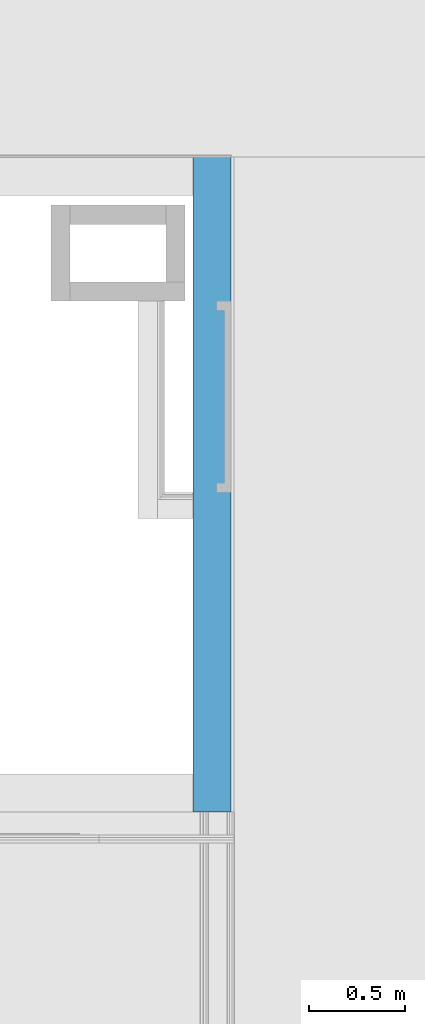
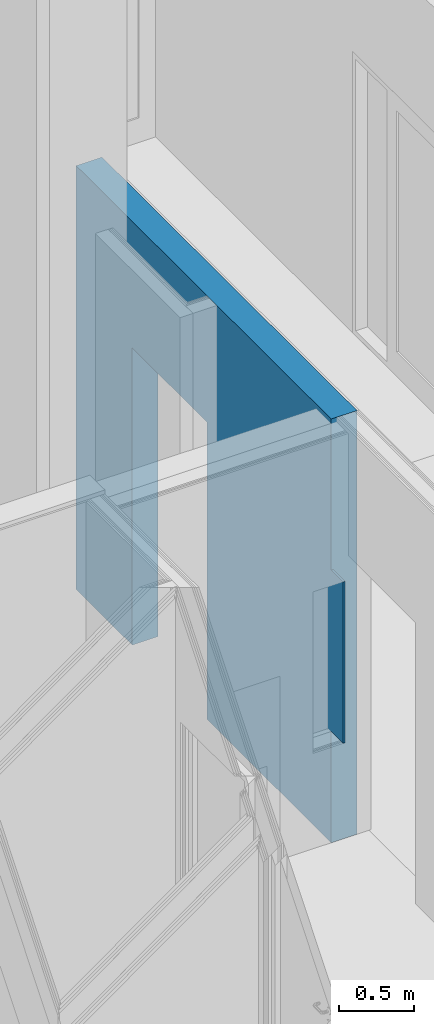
# One storey, part 118 of 139: 1 building element part, 1 opening, 1 element without a shape of its own.
"""IFC2X3 building model written with IfcOpenShell, lengths in millimetres."""

from ifc_helpers import new_model, entity, si_unit, converted_unit, derived_unit, money_unit, direction, frame, origin_with_axes, place, context, subcontext, project, spatial, faceted_brep, material, type_object, element, aggregate, save


model = new_model("IFC2X3")

# Units and contexts
model_context = context("Model", 3, precision=0.01, world=origin_with_axes(), true_north=direction((0.0, 1.0)))
body_context = subcontext(model_context, "Body", "Model", "MODEL_VIEW")
ifc_project = project(units=[si_unit("LENGTHUNIT", "METRE", prefix="MILLI"), si_unit("AREAUNIT", "SQUARE_METRE"), si_unit("VOLUMEUNIT", "CUBIC_METRE"), converted_unit("PLANEANGLEUNIT", "DEGREE", entity("IfcPlaneAngleMeasure", 0.0174532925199), si_unit("PLANEANGLEUNIT", "RADIAN"), dimensions=[0, 0, 0, 0, 0, 0, 0]), money_unit("EUR"), converted_unit("TIMEUNIT", "Year", entity("IfcTimeMeasure", 31556926.0), si_unit("TIMEUNIT", "SECOND"), dimensions=[0, 0, 1, 0, 0, 0, 0]), si_unit("MASSUNIT", "GRAM", prefix="KILO"), si_unit("THERMODYNAMICTEMPERATUREUNIT", "DEGREE_CELSIUS"), si_unit("LUMINOUSINTENSITYUNIT", "LUMEN"), si_unit("ENERGYUNIT", "JOULE", prefix="MEGA"), derived_unit("THERMALCONDUCTANCEUNIT", [(si_unit("POWERUNIT", "WATT"), 1), (si_unit("LENGTHUNIT", "METRE"), -1), (si_unit("THERMODYNAMICTEMPERATUREUNIT", "KELVIN"), -1)]), derived_unit("SPECIFICHEATCAPACITYUNIT", [(si_unit("ENERGYUNIT", "JOULE"), 1), (si_unit("MASSUNIT", "GRAM", prefix="KILO"), -1), (si_unit("THERMODYNAMICTEMPERATUREUNIT", "KELVIN"), -1)]), derived_unit("MASSDENSITYUNIT", [(si_unit("MASSUNIT", "GRAM", prefix="KILO"), 1), (si_unit("VOLUMEUNIT", "CUBIC_METRE"), -1)])], contexts=[model_context])

# Site, building, storey
site_placement = place(None, origin_with_axes())
site = spatial("IfcSite", under=ifc_project, at=site_placement, Name="Kolde pst 67a", CompositionType="ELEMENT")
building_placement = place(site_placement, origin_with_axes())
building = spatial("IfcBuilding", under=site, at=building_placement, Name="Riigigümnaasium", CompositionType="ELEMENT")
storey_placement = place(building_placement, frame((0.0, 0.0, 4600.0), z_axis=(0.0, 0.0, 1.0), x_axis=(1.0, 0.0, 0.0)))
storey = spatial("IfcBuildingStorey", under=building, at=storey_placement, Name="2. korrus", CompositionType="ELEMENT", Elevation=4600.0)

# Wall, opening, building element part
wall_type = type_object("IfcWallType", Name="SS-KP-20/2_plokksein 1xplaaditud (1) 215", PredefinedType="NOTDEFINED")
wall_placement = place(storey_placement, frame((73779.99953, 24440.0001779, -130.0), z_axis=(0.0, 0.0, 1.0), x_axis=(0.0, -1.0, 0.0)))
wall = element("IfcWall", 1, at=wall_placement, inside=storey, type_object=wall_type, Name="Sisesein")
opening_placement = place(wall_placement, frame((1250.00095477, 0.0, 130.0), z_axis=(0.0, 0.0, 1.0), x_axis=(1.0, 0.0, 0.0)))
element("IfcOpeningElement", 2, at=opening_placement, cuts=wall, Name="Siseuks", context=body_context, shape_type="Brep", body=[
    faceted_brep([(-500.0, 430.0, 2300.0), (-500.0, 430.0, 0.0), (-500.0, -215.0, 0.0), (-500.0, -215.0, 2300.0), (500.0, 430.0, 2300.0), (500.0, 430.0, 0.0), (500.0, -215.0, 0.0), (500.0, -215.0, 2300.0)], [[[0, 1, 2, 3]], [[0, 4, 5, 1]], [[1, 5, 6, 2]], [[3, 2, 6, 7]], [[4, 0, 3, 7]], [[5, 4, 7, 6]]]),
])
ifc_material = material(Name="_KANDETARIND - kergplokk Fibo3 200mm")
building_element_part_placement = place(wall_placement, origin_with_axes())
building_element_part = element("IfcBuildingElementPart", 3, at=building_element_part_placement, material=ifc_material, Name="_KANDETARIND - kergplokk Fibo3 200mm", context=body_context, shape_type="Brep", body=[
    faceted_brep([(1750.00095477, 9.68583435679e-07, 130.0), (1750.00095477, 2.12651229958e-07, 2430.0), (750.000954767, 2.12651229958e-07, 2430.0), (750.000954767, 9.68583435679e-07, 130.0), (750.000954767, 2.12651229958e-07, 0.0), (0.0, 0.0, 0.0), (0.0, 0.0, 3465.0), (3416.21485491, 9.68583435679e-07, 3464.99999881), (3416.21485491, 9.68583435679e-07, 0.0), (1750.00095477, 4.96171992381e-07, 0.0), (1750.00095477, -200.00007161, 130.0), (1750.00095477, -200.00007161, 2430.0), (750.000954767, -200.00007161, 2430.0), (750.000954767, -200.00007161, 130.0), (750.000954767, -200.00007161, 0.0), (0.0, -200.0, 0.0), (0.0, -200.0, 3465.0), (3416.21485491, -200.0, 3464.99999881), (3416.21485491, -200.0, 0.0), (3416.21487002, -200.0, 3430.0), (3416.21487002, -200.0, 2230.0), (3416.21487002, -184.999999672, 2230.0), (3416.21487002, -184.999999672, 910.0), (3416.21487002, -200.0, 910.0), (3416.21487002, -200.0, 50.0), (1750.00095477, -200.00007161, 0.0), (3576.21485667, -200.0, 910.0), (3576.21485667, -200.0, 2230.0), (3576.21485655, -184.999998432, 2230.0), (3576.21485655, -184.999998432, 910.0)], [[[0, 1, 2, 3, 4, 5, 6, 7, 8, 9]], [[1, 0, 10, 11]], [[2, 1, 11, 12]], [[3, 2, 12, 13]], [[3, 13, 14, 4]], [[14, 15, 5, 4]], [[5, 15, 16, 6]], [[16, 17, 7, 6]], [[18, 8, 7, 17, 19, 20, 21, 22, 23, 24]], [[9, 8, 18, 25]], [[10, 0, 9, 25]], [[11, 10, 25, 18, 24, 23, 26, 27, 20, 19, 17, 16, 15, 14, 13, 12]], [[21, 20, 27, 28]], [[22, 21, 28, 29]], [[23, 22, 29, 26]], [[28, 27, 26, 29]]]),
])
aggregate(wall, [building_element_part])

save(model, "model.ifc")
